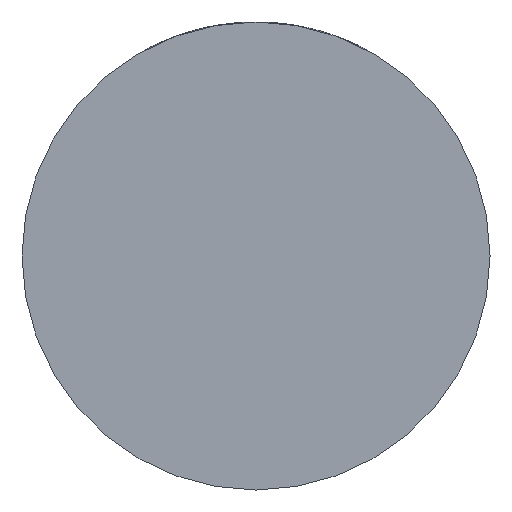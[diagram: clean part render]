
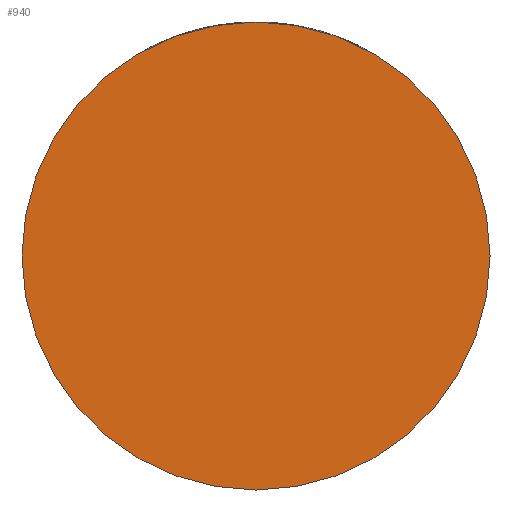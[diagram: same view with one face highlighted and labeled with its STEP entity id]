
A CAD part, front view. The second image highlights one B-rep face of the part: STEP entity #940.
In plain terms, the highlighted planar face has unit normal (0, -1, 0).
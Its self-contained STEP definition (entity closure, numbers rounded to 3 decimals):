
#208 = PLANE ( 'NONE',  #2855 ) ;
#728 = DIRECTION ( 'NONE',  ( 1., 0., 0. ) ) ;
#940 = ADVANCED_FACE ( 'NONE', ( #3087 ), #208, .T. ) ;
#1181 = CARTESIAN_POINT ( 'NONE',  ( 0., -42., 0. ) ) ;
#1460 = CARTESIAN_POINT ( 'NONE',  ( 0., -42., 0. ) ) ;
#1591 = CARTESIAN_POINT ( 'NONE',  ( 0., -42., 0. ) ) ;
#1693 = EDGE_CURVE ( 'NONE', #3923, #2231, #4223, .T. ) ;
#1820 = DIRECTION ( 'NONE',  ( 0., -1., 0. ) ) ;
#2231 = VERTEX_POINT ( 'NONE', #2994 ) ;
#2601 = ORIENTED_EDGE ( 'NONE', *, *, #2961, .T. ) ;
#2802 = AXIS2_PLACEMENT_3D ( 'NONE', #1181, #1820, #3647 ) ;
#2813 = AXIS2_PLACEMENT_3D ( 'NONE', #1460, #3890, #728 ) ;
#2855 = AXIS2_PLACEMENT_3D ( 'NONE', #1591, #2997, #4406 ) ;
#2961 = EDGE_CURVE ( 'NONE', #2231, #3923, #3252, .T. ) ;
#2994 = CARTESIAN_POINT ( 'NONE',  ( 49., -42., 0. ) ) ;
#2997 = DIRECTION ( 'NONE',  ( 0., -1., 0. ) ) ;
#3087 = FACE_OUTER_BOUND ( 'NONE', #3600, .T. ) ;
#3239 = CARTESIAN_POINT ( 'NONE',  ( -49., -42., 0. ) ) ;
#3252 = CIRCLE ( 'NONE', #2802, 49. ) ;
#3600 = EDGE_LOOP ( 'NONE', ( #4260, #2601 ) ) ;
#3647 = DIRECTION ( 'NONE',  ( 1., 0., 0. ) ) ;
#3890 = DIRECTION ( 'NONE',  ( 0., -1., 0. ) ) ;
#3923 = VERTEX_POINT ( 'NONE', #3239 ) ;
#4223 = CIRCLE ( 'NONE', #2813, 49. ) ;
#4260 = ORIENTED_EDGE ( 'NONE', *, *, #1693, .T. ) ;
#4406 = DIRECTION ( 'NONE',  ( 1., 0., 0. ) ) ;
